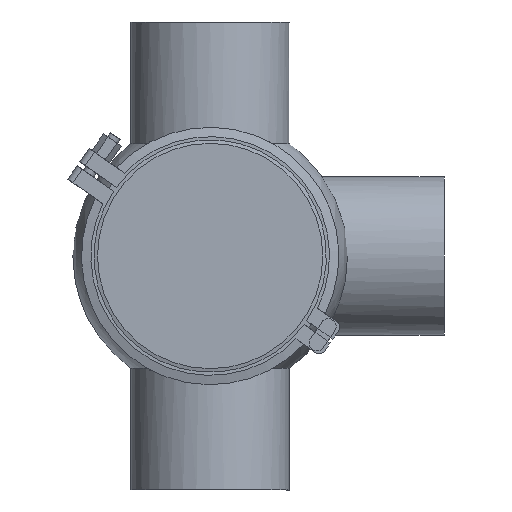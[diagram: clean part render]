
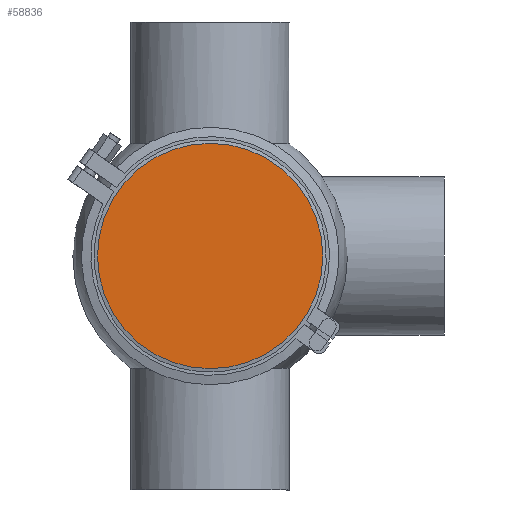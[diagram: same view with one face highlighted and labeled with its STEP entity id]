
A CAD part, front view. The second image highlights one B-rep face of the part: STEP entity #58836.
In plain terms, the highlighted planar face has unit normal (0, -1, 0).
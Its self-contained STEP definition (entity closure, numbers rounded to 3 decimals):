
#1700 = AXIS2_PLACEMENT_3D ( 'NONE', #61202, #36578, #27913 ) ;
#5090 = CIRCLE ( 'NONE', #8006, 72.25 ) ;
#7445 = EDGE_LOOP ( 'NONE', ( #11132 ) ) ;
#8006 = AXIS2_PLACEMENT_3D ( 'NONE', #55546, #22626, #18898 ) ;
#11132 = ORIENTED_EDGE ( 'NONE', *, *, #49686, .F. ) ;
#18898 = DIRECTION ( 'NONE',  ( 0., 0., 1. ) ) ;
#22626 = DIRECTION ( 'NONE',  ( 0., 1., 0. ) ) ;
#22953 = PLANE ( 'NONE',  #1700 ) ;
#25803 = VERTEX_POINT ( 'NONE', #34797 ) ;
#27913 = DIRECTION ( 'NONE',  ( 0., 0., -1. ) ) ;
#34797 = CARTESIAN_POINT ( 'NONE',  ( 0., 0., 72.25 ) ) ;
#36578 = DIRECTION ( 'NONE',  ( 0., -1., 0. ) ) ;
#46197 = FACE_OUTER_BOUND ( 'NONE', #7445, .T. ) ;
#49686 = EDGE_CURVE ( 'NONE', #25803, #25803, #5090, .T. ) ;
#55546 = CARTESIAN_POINT ( 'NONE',  ( 0., 0., 0. ) ) ;
#58836 = ADVANCED_FACE ( 'NONE', ( #46197 ), #22953, .T. ) ;
#61202 = CARTESIAN_POINT ( 'NONE',  ( -72.25, 0., 0. ) ) ;
